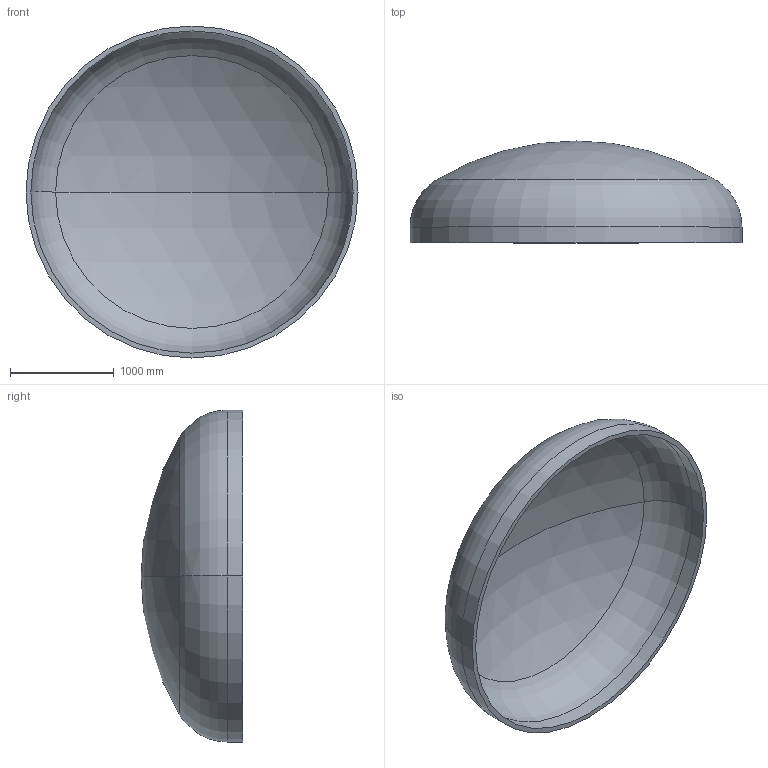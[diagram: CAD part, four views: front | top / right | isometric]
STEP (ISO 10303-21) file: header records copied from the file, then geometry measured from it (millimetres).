
FILE_DESCRIPTION (( 'STEP AP203' ), '1' );
FILE_NAME ('DIN 28013 Korbbogenform_-_Boden DIN 28013 - 3200 x 150 - I - s=47.step', '2016-07-01T18:40:46', ( '' ), ( '' ), 'SwSTEP 2.0', 'SolidWorks 2013', '' );
FILE_SCHEMA (( 'CONFIG_CONTROL_DESIGN' ));
Length unit declared in the file: millimetre
Products named in the file (1): DIN 28013 Korbbogenform_-_Boden DIN 28013 - 3200 x 150 - I - s=47
Bounding box: 3200 x 980.79 x 3200 mm (x, y, z)
Volume: 582719484.6 mm3; surface area: 25266747.6 mm2
Topology: 1 solids, 1 shells, 13 faces, 24 edges, 14 vertices
Faces by surface type: torus 4, cylinder 4, sphere 4, plane 1
Entity records: 407 total; most frequent: DIRECTION 72, CARTESIAN_POINT 52, ORIENTED_EDGE 48, AXIS2_PLACEMENT_3D 34, EDGE_CURVE 24, CIRCLE 20, EDGE_LOOP 14, VERTEX_POINT 14
